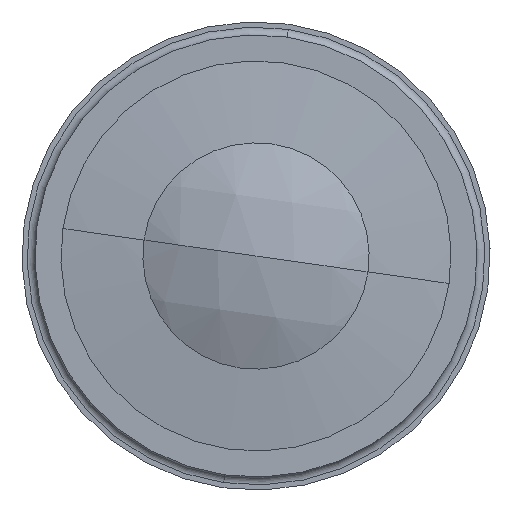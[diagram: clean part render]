
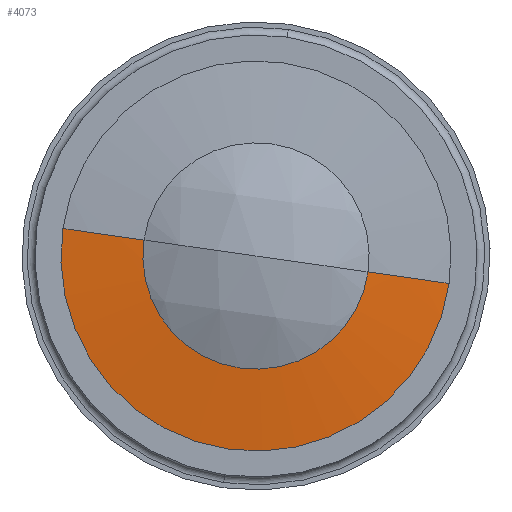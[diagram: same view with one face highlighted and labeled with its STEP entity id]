
A CAD part, left-side view. The second image highlights one B-rep face of the part: STEP entity #4073.
In plain terms, the highlighted spherical face has radius 56.5 mm.
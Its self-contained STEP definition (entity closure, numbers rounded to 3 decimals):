
#795 = CARTESIAN_POINT ( 'NONE',  ( 26.454, 0., -4.35 ) ) ;
#812 = CARTESIAN_POINT ( 'NONE',  ( 26.786, -7.5, 0. ) ) ;
#817 = CARTESIAN_POINT ( 'NONE',  ( 26.786, 7.5, 0. ) ) ;
#907 = CARTESIAN_POINT ( 'NONE',  ( 26.454, -4.35, 0. ) ) ;
#937 = CARTESIAN_POINT ( 'NONE',  ( 26.454, 4.35, 0. ) ) ;
#2163 = DIRECTION ( 'NONE',  ( 1., 0., 0. ) ) ;
#2165 = DIRECTION ( 'NONE',  ( 0., 0., 1. ) ) ;
#2166 = CARTESIAN_POINT ( 'NONE',  ( 82.786, 0., 0. ) ) ;
#2168 = DIRECTION ( 'NONE',  ( 0., 0., 1. ) ) ;
#2169 = DIRECTION ( 'NONE',  ( -1., 0., 0. ) ) ;
#2170 = CARTESIAN_POINT ( 'NONE',  ( 26.454, 0., 0. ) ) ;
#2171 = DIRECTION ( 'NONE',  ( 0., 0., 1. ) ) ;
#2172 = DIRECTION ( 'NONE',  ( -1., 0., 0. ) ) ;
#2173 = CARTESIAN_POINT ( 'NONE',  ( 26.454, 0., 0. ) ) ;
#2174 = DIRECTION ( 'NONE',  ( 0., 1., 0. ) ) ;
#2175 = DIRECTION ( 'NONE',  ( 0., 0., -1. ) ) ;
#2176 = CARTESIAN_POINT ( 'NONE',  ( 82.786, 0., 0. ) ) ;
#2177 = DIRECTION ( 'NONE',  ( 0., 0., 1. ) ) ;
#2178 = DIRECTION ( 'NONE',  ( -1., 0., 0. ) ) ;
#2179 = CARTESIAN_POINT ( 'NONE',  ( 26.786, 0., 0. ) ) ;
#3800 = EDGE_CURVE ( 'NONE', #4725, #4720, #4634, .T. ) ;
#3801 = EDGE_CURVE ( 'NONE', #4720, #4879, #4639, .T. ) ;
#3802 = EDGE_CURVE ( 'NONE', #4701, #4879, #4642, .T. ) ;
#3803 = EDGE_CURVE ( 'NONE', #4913, #4701, #4635, .T. ) ;
#3804 = EDGE_CURVE ( 'NONE', #4725, #4913, #4638, .T. ) ;
#4073 = ADVANCED_FACE ( 'NONE', ( #4278 ), #4275, .T. ) ;
#4275 = SPHERICAL_SURFACE ( 'NONE', #5259, 56.5 ) ;
#4278 = FACE_OUTER_BOUND ( 'NONE', #4546, .T. ) ;
#4546 = EDGE_LOOP ( 'NONE', ( #5041, #5103, #5029, #4982, #5028 ) ) ;
#4634 = CIRCLE ( 'NONE', #5355, 7.5 ) ;
#4635 = CIRCLE ( 'NONE', #5352, 4.35 ) ;
#4638 = CIRCLE ( 'NONE', #5351, 56.5 ) ;
#4639 = CIRCLE ( 'NONE', #5354, 56.5 ) ;
#4642 = CIRCLE ( 'NONE', #5353, 4.35 ) ;
#4701 = VERTEX_POINT ( 'NONE', #795 ) ;
#4720 = VERTEX_POINT ( 'NONE', #812 ) ;
#4725 = VERTEX_POINT ( 'NONE', #817 ) ;
#4879 = VERTEX_POINT ( 'NONE', #907 ) ;
#4913 = VERTEX_POINT ( 'NONE', #937 ) ;
#4982 = ORIENTED_EDGE ( 'NONE', *, *, #3803, .F. ) ;
#5028 = ORIENTED_EDGE ( 'NONE', *, *, #3804, .F. ) ;
#5029 = ORIENTED_EDGE ( 'NONE', *, *, #3802, .F. ) ;
#5041 = ORIENTED_EDGE ( 'NONE', *, *, #3800, .T. ) ;
#5103 = ORIENTED_EDGE ( 'NONE', *, *, #3801, .T. ) ;
#5259 = AXIS2_PLACEMENT_3D ( 'NONE', #7741, #7745, #7740 ) ;
#5351 = AXIS2_PLACEMENT_3D ( 'NONE', #2166, #2165, #2163 ) ;
#5352 = AXIS2_PLACEMENT_3D ( 'NONE', #2170, #2169, #2168 ) ;
#5353 = AXIS2_PLACEMENT_3D ( 'NONE', #2173, #2172, #2171 ) ;
#5354 = AXIS2_PLACEMENT_3D ( 'NONE', #2176, #2175, #2174 ) ;
#5355 = AXIS2_PLACEMENT_3D ( 'NONE', #2179, #2178, #2177 ) ;
#7740 = DIRECTION ( 'NONE',  ( 0., 1., 0. ) ) ;
#7741 = CARTESIAN_POINT ( 'NONE',  ( 82.786, 0., 0. ) ) ;
#7745 = DIRECTION ( 'NONE',  ( 0., 0., -1. ) ) ;
